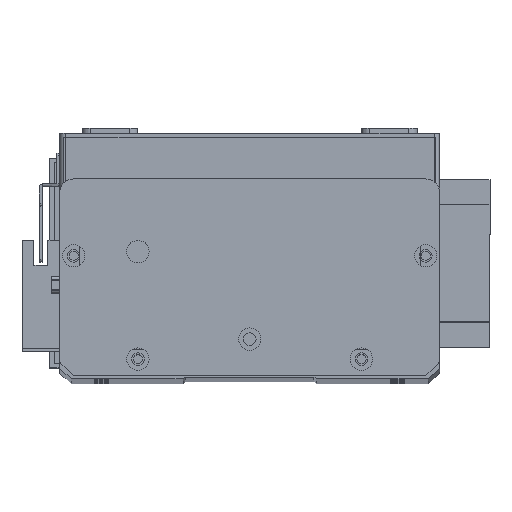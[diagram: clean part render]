
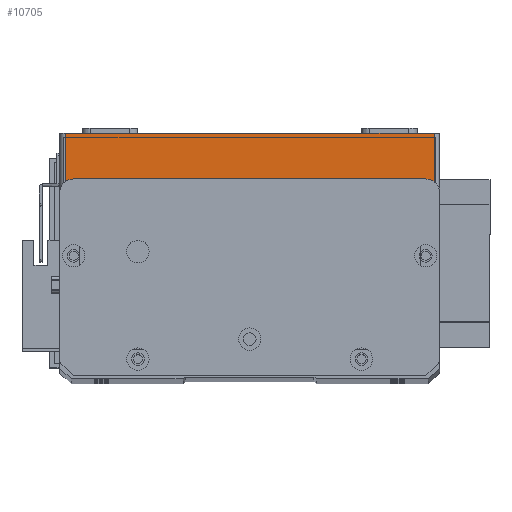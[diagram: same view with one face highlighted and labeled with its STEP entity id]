
A CAD part, top view. The second image highlights one B-rep face of the part: STEP entity #10705.
In plain terms, the highlighted planar face has unit normal (0, 0, 1) as drawn and (0, -1, 0) by its records, which use the part's own axes.
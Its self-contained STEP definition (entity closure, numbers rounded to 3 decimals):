
#1587 = DIRECTION ( 'NONE',  ( 0., 0., 1. ) ) ;
#1885 = ORIENTED_EDGE ( 'NONE', *, *, #9142, .T. ) ;
#2229 = ORIENTED_EDGE ( 'NONE', *, *, #5922, .F. ) ;
#2340 = LINE ( 'NONE', #2813, #13562 ) ;
#2396 = ORIENTED_EDGE ( 'NONE', *, *, #4087, .T. ) ;
#2466 = VERTEX_POINT ( 'NONE', #3197 ) ;
#2813 = CARTESIAN_POINT ( 'NONE',  ( 0., 0., 0. ) ) ;
#2972 = VECTOR ( 'NONE', #6948, 1000. ) ;
#3197 = CARTESIAN_POINT ( 'NONE',  ( 134., 0., 0. ) ) ;
#4087 = EDGE_CURVE ( 'NONE', #17047, #17687, #16323, .T. ) ;
#5665 = LINE ( 'NONE', #13408, #28220 ) ;
#5922 = EDGE_CURVE ( 'NONE', #17047, #26154, #5665, .T. ) ;
#6948 = DIRECTION ( 'NONE',  ( 0., 0., -1. ) ) ;
#8043 = VECTOR ( 'NONE', #9674, 1000. ) ;
#8275 = CARTESIAN_POINT ( 'NONE',  ( 0., 0., 19.5 ) ) ;
#9142 = EDGE_CURVE ( 'NONE', #2466, #26154, #19995, .T. ) ;
#9674 = DIRECTION ( 'NONE',  ( 0., 0., 1. ) ) ;
#10000 = EDGE_LOOP ( 'NONE', ( #2229, #2396, #24289, #1885 ) ) ;
#10242 = EDGE_CURVE ( 'NONE', #17687, #2466, #2340, .T. ) ;
#10705 = ADVANCED_FACE ( 'NONE', ( #24800 ), #12777, .F. ) ;
#10708 = CARTESIAN_POINT ( 'NONE',  ( 2., 0., 19.5 ) ) ;
#11912 = CARTESIAN_POINT ( 'NONE',  ( 134., 0., 19.5 ) ) ;
#12777 = PLANE ( 'NONE',  #16499 ) ;
#13408 = CARTESIAN_POINT ( 'NONE',  ( 0., 0., 19.5 ) ) ;
#13562 = VECTOR ( 'NONE', #25316, 1000. ) ;
#15051 = DIRECTION ( 'NONE',  ( 0., 1., 0. ) ) ;
#16323 = LINE ( 'NONE', #18181, #2972 ) ;
#16499 = AXIS2_PLACEMENT_3D ( 'NONE', #8275, #15051, #1587 ) ;
#17047 = VERTEX_POINT ( 'NONE', #10708 ) ;
#17312 = CARTESIAN_POINT ( 'NONE',  ( 2., 0., 0. ) ) ;
#17687 = VERTEX_POINT ( 'NONE', #17312 ) ;
#18181 = CARTESIAN_POINT ( 'NONE',  ( 2., 0., 19.5 ) ) ;
#19182 = CARTESIAN_POINT ( 'NONE',  ( 134., 0., 19.5 ) ) ;
#19995 = LINE ( 'NONE', #11912, #8043 ) ;
#20231 = DIRECTION ( 'NONE',  ( 1., 0., 0. ) ) ;
#24289 = ORIENTED_EDGE ( 'NONE', *, *, #10242, .T. ) ;
#24800 = FACE_OUTER_BOUND ( 'NONE', #10000, .T. ) ;
#25316 = DIRECTION ( 'NONE',  ( 1., 0., 0. ) ) ;
#26154 = VERTEX_POINT ( 'NONE', #19182 ) ;
#28220 = VECTOR ( 'NONE', #20231, 1000. ) ;
